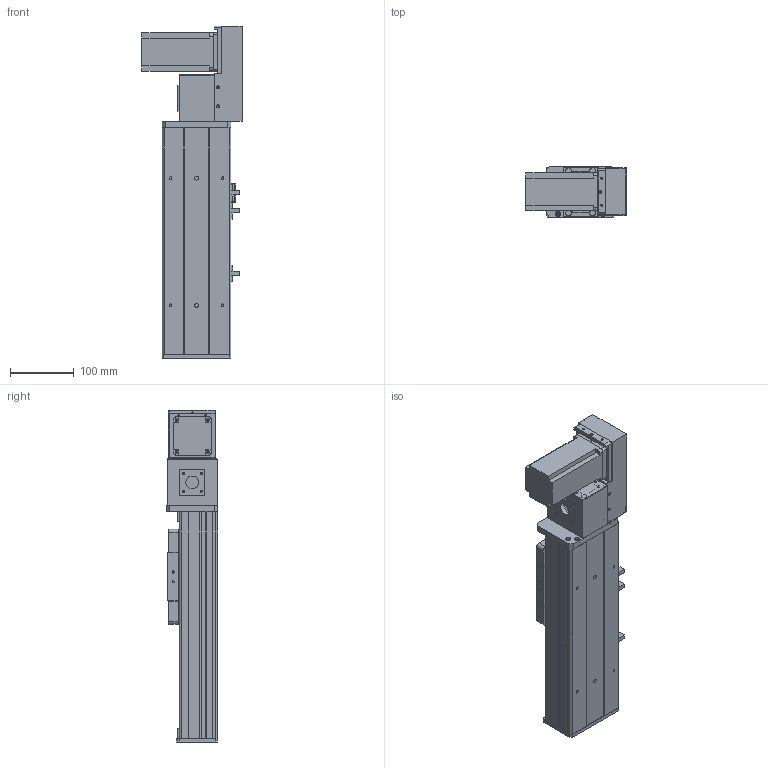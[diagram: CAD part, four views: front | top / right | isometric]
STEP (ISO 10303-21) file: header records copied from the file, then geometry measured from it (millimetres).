
FILE_DESCRIPTION (( 'STEP AP203' ), '1' );
FILE_NAME ('Y10CB-D90-S100-BR-P400W.STEP', '2020-02-16T01:29:22', ( '微软用户' ), ( '微软中国' ), 'SwSTEP 2.0', 'SolidWorks 2017', '' );
FILE_SCHEMA (( 'CONFIG_CONTROL_DESIGN' ));
Length unit declared in the file: millimetre
Products named in the file (18): 10CB9-掛极; 0B-源倛裔啣; 10CB-耜裔; 0B-埴倛裔啣; Y135C-陔俋离換覜結え-; Y俋欶BR----; 0CB-雄赽釱---; Y100-135俋离換覜ん--; san松下电机400不带刹车----; 10CB-詩湍-; 0Cb-俋欶---; Y10B--々湍喘謫眊--666; Y10CB- 掛极耜裔啣-毀---; Y10B-々湍喘謫眊楊擘啣--; Y10CB-D90-S100-BR-P400W; Y10C---詩湍揤啣; Y10B-耜蚾蟀諉啣----; 0B-萇儂楊擘啣
Assembly tree (21 placements, depth 2):
  Y10CB-D90-S100-BR-P400W
    0CB-雄赽釱---
    0Cb-俋欶---
    Y10B-々湍喘謫眊楊擘啣--
    Y10B-耜蚾蟀諉啣----
    0B-萇儂楊擘啣
    san松下电机400不带刹车----
    0B-源倛裔啣
    0B-埴倛裔啣
    Y俋欶BR----
    10CB-詩湍-
    Y10CB- 掛极耜裔啣-毀---  x2
    Y10C---詩湍揤啣  x2
    10CB9-掛极
    10CB-耜裔
    Y135C-陔俋离換覜結え-
    Y100-135俋离換覜ん--  x3
    Y10B--々湍喘謫眊--666
Bounding box: 157.5 x 80.5 x 522.5 mm (x, y, z)
Volume: 1566437.7 mm3; surface area: 620210.3 mm2
Topology: 21 solids, 21 shells, 930 faces, 2443 edges, 1610 vertices
Faces by surface type: plane 469, cylinder 437, cone 24
Entity records: 28404 total; most frequent: CARTESIAN_POINT 4729, DIRECTION 4654, ORIENTED_EDGE 4356, EDGE_CURVE 2178, AXIS2_PLACEMENT_3D 1665, VERTEX_POINT 1436, LINE 1324, VECTOR 1324
